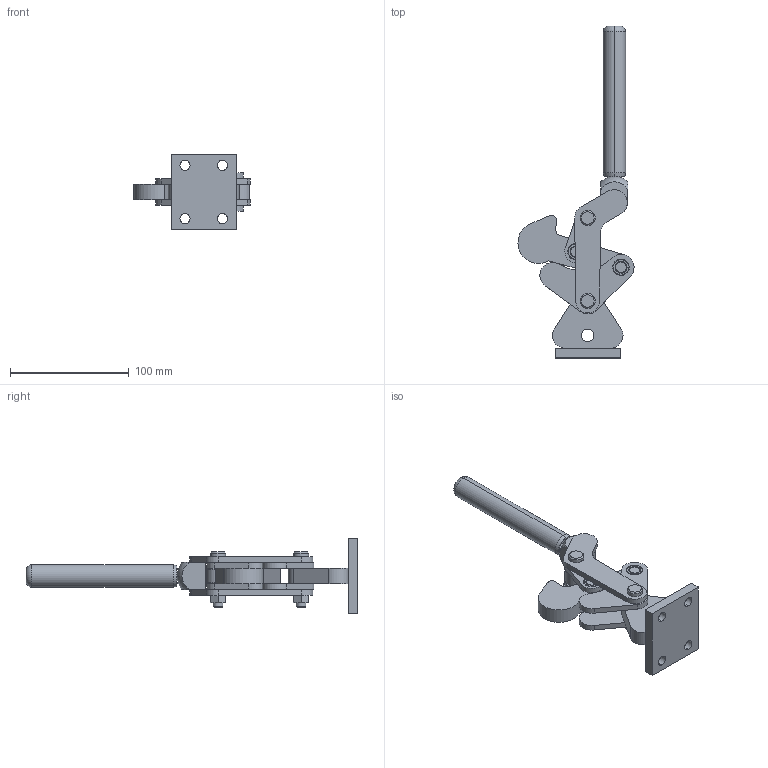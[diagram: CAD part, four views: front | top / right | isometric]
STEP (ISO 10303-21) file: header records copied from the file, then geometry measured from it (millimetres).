
FILE_DESCRIPTION (( 'STEP AP203' ), '1' );
FILE_NAME ('KFU-05 D.STEP', '2012-11-22T18:46:55', ( 'Ricardo' ), ( '' ), 'SwSTEP 2.0', 'SolidWorks 2012', '' );
FILE_SCHEMA (( 'CONFIG_CONTROL_DESIGN' ));
Length unit declared in the file: millimetre
Products named in the file (15): 11.50002; 12.50005; 05.20010; 05.20009; 01.20008; 15.20004_Montagem; 08.10011_Montagem; 15.10012_Montagem; 03.15006_Montagem; 15.10011_Montagem; 02.11017_Montagem; 02.10007; KFU-05 D; 05.20048; 16.20012
Assembly tree (27 placements, depth 2):
  KFU-05 D
    02.10007
    02.11017_Montagem
    15.10011_Montagem  x2
    03.15006_Montagem
    15.10012_Montagem  x2
    08.10011_Montagem  x2
    15.20004_Montagem
    01.20008
    05.20009
    05.20010  x8
    12.50005  x2
    11.50002  x2
    16.20012  x2
    05.20048
Bounding box: 97.96 x 280 x 64 mm (x, y, z)
Volume: 187818.8 mm3; surface area: 75349.3 mm2
Topology: 27 solids, 27 shells, 351 faces, 788 edges, 490 vertices
Faces by surface type: cylinder 157, plane 102, cone 88, sphere 2, torus 2
Entity records: 7697 total; most frequent: DIRECTION 1100, CARTESIAN_POINT 1070, ORIENTED_EDGE 884, AXIS2_PLACEMENT_3D 446, EDGE_CURVE 442, VERTEX_POINT 280, EDGE_LOOP 234, CIRCLE 222
